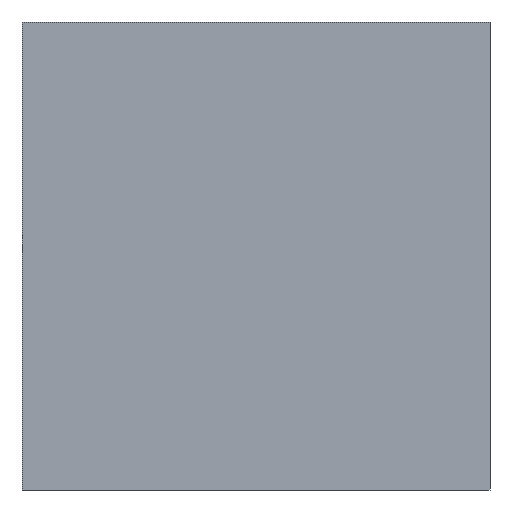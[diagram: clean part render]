
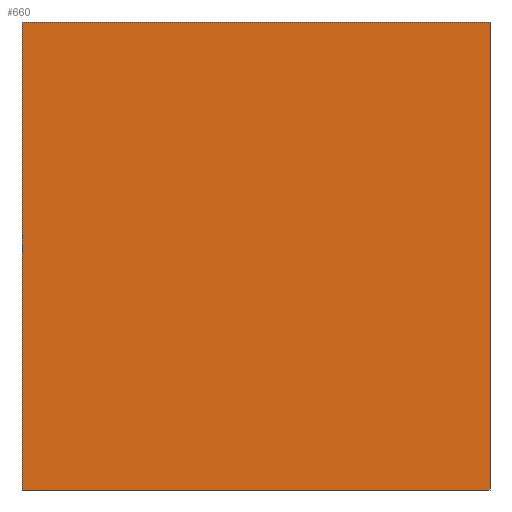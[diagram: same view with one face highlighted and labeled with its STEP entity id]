
A CAD part, left-side view. The second image highlights one B-rep face of the part: STEP entity #660.
In plain terms, the highlighted planar face has unit normal (-1, 0, 0).
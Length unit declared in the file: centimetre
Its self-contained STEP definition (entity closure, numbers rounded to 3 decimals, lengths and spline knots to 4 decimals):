
#52 = VECTOR ( 'NONE', #235, 100. ) ;
#54 = ORIENTED_EDGE ( 'NONE', *, *, #384, .T. ) ;
#55 = AXIS2_PLACEMENT_3D ( 'NONE', #334, #658, #330 ) ;
#61 = LINE ( 'NONE', #487, #497 ) ;
#99 = ORIENTED_EDGE ( 'NONE', *, *, #595, .T. ) ;
#135 = VECTOR ( 'NONE', #413, 100. ) ;
#136 = CARTESIAN_POINT ( 'NONE',  ( 0., 1000., 0. ) ) ;
#171 = EDGE_CURVE ( 'NONE', #293, #297, #449, .T. ) ;
#192 = CARTESIAN_POINT ( 'NONE',  ( 0., 0., 1000. ) ) ;
#197 = VERTEX_POINT ( 'NONE', #294 ) ;
#235 = DIRECTION ( 'NONE',  ( 0., -1., 0. ) ) ;
#242 = VECTOR ( 'NONE', #603, 100. ) ;
#265 = VERTEX_POINT ( 'NONE', #369 ) ;
#293 = VERTEX_POINT ( 'NONE', #428 ) ;
#294 = CARTESIAN_POINT ( 'NONE',  ( 0., 0., 0. ) ) ;
#297 = VERTEX_POINT ( 'NONE', #316 ) ;
#316 = CARTESIAN_POINT ( 'NONE',  ( 0., 0., 1000. ) ) ;
#330 = DIRECTION ( 'NONE',  ( 0., 0., -1. ) ) ;
#334 = CARTESIAN_POINT ( 'NONE',  ( 0., 1000., 1000. ) ) ;
#369 = CARTESIAN_POINT ( 'NONE',  ( 0., 1000., 0. ) ) ;
#375 = EDGE_LOOP ( 'NONE', ( #54, #587, #564, #99 ) ) ;
#384 = EDGE_CURVE ( 'NONE', #265, #197, #505, .T. ) ;
#393 = PLANE ( 'NONE',  #55 ) ;
#413 = DIRECTION ( 'NONE',  ( 0., 0., -1. ) ) ;
#428 = CARTESIAN_POINT ( 'NONE',  ( 0., 1000., 1000. ) ) ;
#432 = DIRECTION ( 'NONE',  ( 0., 0., -1. ) ) ;
#449 = LINE ( 'NONE', #662, #242 ) ;
#487 = CARTESIAN_POINT ( 'NONE',  ( 0., 1000., 1000. ) ) ;
#491 = EDGE_CURVE ( 'NONE', #297, #197, #672, .T. ) ;
#497 = VECTOR ( 'NONE', #432, 100. ) ;
#505 = LINE ( 'NONE', #136, #52 ) ;
#564 = ORIENTED_EDGE ( 'NONE', *, *, #171, .F. ) ;
#587 = ORIENTED_EDGE ( 'NONE', *, *, #491, .F. ) ;
#595 = EDGE_CURVE ( 'NONE', #293, #265, #61, .T. ) ;
#603 = DIRECTION ( 'NONE',  ( 0., -1., 0. ) ) ;
#636 = FACE_OUTER_BOUND ( 'NONE', #375, .T. ) ;
#658 = DIRECTION ( 'NONE',  ( 1., 0., 0. ) ) ;
#660 = ADVANCED_FACE ( 'NONE', ( #636 ), #393, .F. ) ;
#662 = CARTESIAN_POINT ( 'NONE',  ( 0., 1000., 1000. ) ) ;
#672 = LINE ( 'NONE', #192, #135 ) ;
